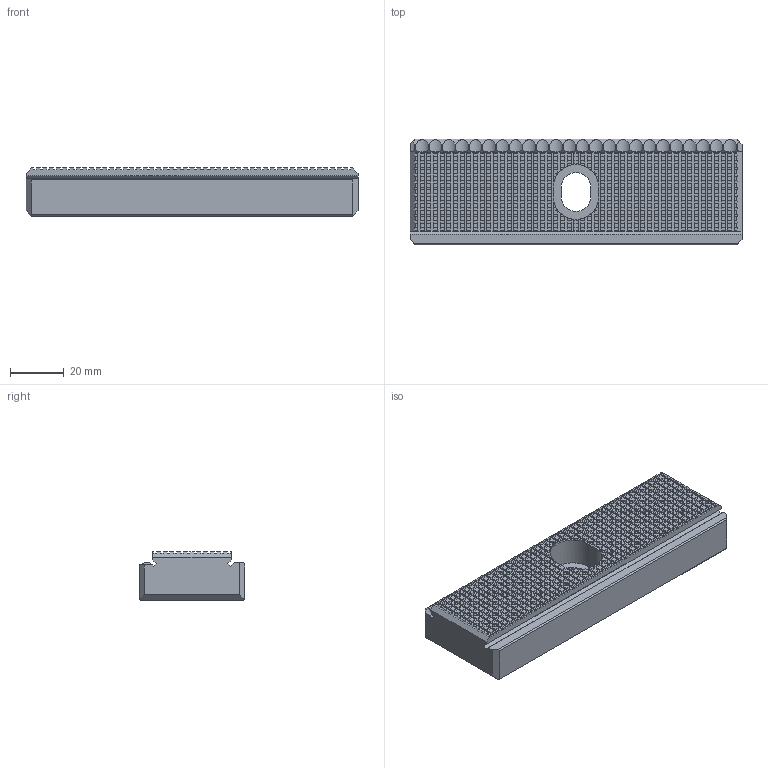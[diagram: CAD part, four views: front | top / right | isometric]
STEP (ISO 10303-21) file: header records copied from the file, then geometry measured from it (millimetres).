
FILE_DESCRIPTION((''),'2;1');
FILE_NAME('FG_VC_BASIC_C0076NP002','2026-02-23T17:17:25',('Admin'),(''),'CREO PARAMETRIC BY PTC INC, 2025010','CREO PARAMETRIC BY PTC INC, 2025010','');
FILE_SCHEMA(('CONFIG_CONTROL_DESIGN'));
Products named in the file (1): FG_VC_BASIC_C0076NP002
Bounding box: 124 x 39.5 x 18 mm (x, y, z)
Volume: 76432.4 mm3; surface area: 18653.4 mm2
Topology: 1 solids, 1 shells, 2490 faces, 7464 edges, 4976 vertices
Faces by surface type: plane 2460, cylinder 30
Entity records: 82420 total; most frequent: CARTESIAN_POINT 15236, ORIENTED_EDGE 14928, DIRECTION 12442, EDGE_CURVE 7464, VECTOR 7358, LINE 7358, VERTEX_POINT 4976, AXIS2_PLACEMENT_3D 2542
